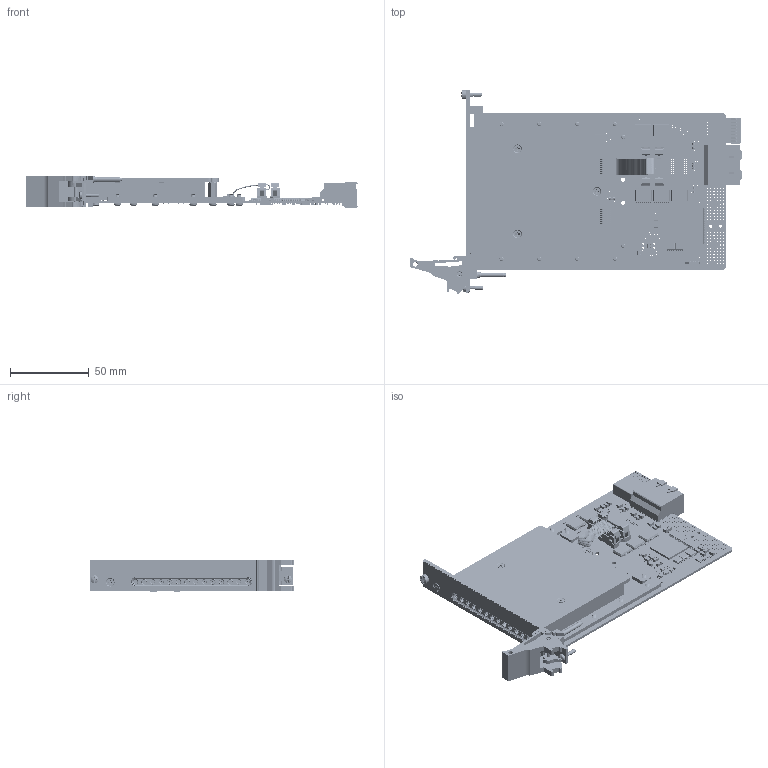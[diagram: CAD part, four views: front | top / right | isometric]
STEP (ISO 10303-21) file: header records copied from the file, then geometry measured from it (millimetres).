
FILE_DESCRIPTION (( 'STEP AP214' ), '1' );
FILE_NAME ('42-203-001 PXIe 1000Base-T1 Fault Insertion Switch 3-Channel.step', '2023-03-17T10:39:54', ( '' ), ( '' ), 'SwSTEP 2.0', 'SolidWorks 2021', '' );
FILE_SCHEMA (( 'AUTOMOTIVE_DESIGN' ));
Length unit declared in the file: millimetre
Products named in the file (86): A-PC-1323-PXIe-# RF MUX MOTHERBOARD; C-CP-239  Power Line Filter; C-IC-124 16-Bit Constant Current Sink Driver; C-IC-425 SOICN 8PIN SD; C-CN-939 8-Way Ribbon Cable 2 in_PXI RF DC1; C-RS-256 Res 100K (0603) 1.16W 1% 100pp SMT; C-FX-042 Screw M2.5x6 CSK Pozi_M 2.5x06 - C-FX-042; C-FX-303 12mm M2.5 Hex Standoff_12mm Hexagonal spacer; C-CN-1550 MMCX Switchable Jack 50 Ohms; C-CP-099 CAP 0.1uF 16V 0402 SMT; C-CN-939 8-Way Ribbon Cable assembly 2 in _PXI RF DC1; C-FX-165 Handle Pin; C-IC-546 24 BIT BUS SWITCH 56PIN TVSOP; C-RS-521 Res 120R (0603) 1-16W 1% 100pp; C-CP-139 CAP 4.7UF 1206 16V X7R 10%; C-MS-803 BEAD 120R 0603 2A 0R05 25%; C-PC-1323 RF MUX MOTHERBOARD WITH PXIe; C-CN-1116-Body 40 WAY PXIE XJ4 TYPE B8 RA F; C-FX-432 M2.5 x 6mm Slotted Screw with Vibra Fix Solution; C-CN-107-PIN; C-RS-1487 RES 100k 0.1W 25PPM 0603; C-CP-175 CAP 22uF 1206 25V X5R 10%; C-IC-158 Buffer 3-State SOT-23 5-Pin; P-FX-017 M2,5 Collar Posi-Slot Screw; C-IC-548 1-Bit Flip-Flop 8-Pin SM8; C-RS-088 Res 390R 0603; A-PC-1434 1000Base-T1 6CH FIBO Fault Bus Daughter; C-IC-442 VSSOP 8PIN SD; C-FX-551 Mother & Daughter Clamp R; C-RS-659 RES NW 4K7 4RES 8PINS SMT1206; C-CN-1422-BODY PXIE XJ3 RA F TH SD; C-FX-1271 Black Flexible MMCX Long Row Connector Support; C-CP-130 CAP 1uF CERAMIC SMT 0603; C-FX-165 CPCI Ejector Handle; C-IC-338 4-Channel Digital Isolator 16-Pin SOIC W; C-FX-165 Handle Finger; C-CN-1097 SMP PCB M PIN&PASTE LTD DETENT; C-CP-141 CAP 10UF 1206 35V X5R 10%; A-PC-1323-PXIe RF MUX MOTHERBOARD; C-IC-458 LDO VOLTAGE REGULATOR 1.2V SOT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
Assembly tree (282 placements, depth 5):
  42-203-001 PXIe 1000Base-T1 Fault Insertion Switch 3-Channel
    A-PC-1323-PXIe RF MUX MOTHERBOARD
      A-PC-1323-PXIe-# RF MUX MOTHERBOARD
        C-PC-1323 RF MUX MOTHERBOARD WITH PXIe
        C-CN-897 2x8 way Connector 1.27 pitch  x2
        C-CN-1071
          C-CN-107-BODY
          C-CN-107-PIN  x8
        C-CN-1116 40 WAY PXIE XJ4 TYPE B8 RA F
          C-CN-1116-Body 40 WAY PXIE XJ4 TYPE B8 RA F
          C-CN-1116-Shield 40 WAY PXIE XJ4 TYPE B8 RA F
        C-CN-1422 PXIE XJ3 RA F TH SD ASSY
          C-CN-1422-BODY PXIE XJ3 RA F TH SD
        C-CP-033 Capacitor 10nF SMT 0603  x3
        C-CP-034  x31
        C-CP-099 CAP 0.1uF 16V 0402 SMT  x14
        C-CP-124 CAP 10nF CERAMIC SMT 0402  x29
        C-CP-130 CAP 1uF CERAMIC SMT 0603  x4
        C-CP-131 CAP 3.3nF CERAMIC SMT 0402
        C-CP-139 CAP 4.7UF 1206 16V X7R 10%  x4
        C-CP-141 CAP 10UF 1206 35V X5R 10%  x8
        C-CP-175 CAP 22uF 1206 25V X5R 10%  x7
        C-CP-239  Power Line Filter  x3
        C-IC-158 Buffer 3-State SOT-23 5-Pin
        C-IC-310 SOT353 SD
        C-IC-338 4-Channel Digital Isolator 16-Pin SOIC W  x5
        C-IC-369 FPGA 17000 Cells 65nm Technology 1.2V 256-Pin FTBGA
        C-IC-425 SOICN 8PIN SD  x2
        C-IC-426 32-Flash Memory Standard Serial NOR 32Mbit SPI WSOIC-8
        C-IC-442 VSSOP 8PIN SD
        C-IC-458 LDO VOLTAGE REGULATOR 1.2V SOT  x2
        C-IC-497 High Accuracy 3V to 17V Step Down Converter
        C-IC-546 24 BIT BUS SWITCH 56PIN TVSOP  x2
        C-IC-548 1-Bit Flip-Flop 8-Pin SM8
        C-MS-803 BEAD 120R 0603 2A 0R05 25%  x4
        C-MS-1069 Shielded Power Inductor
        C-RS-147 Res 100R 0603 1-16W 1% 100PPM  x2
        C-RS-148 Res 1K 0603 1-16W 1% 100PPM  x2
        C-RS-152 Res 10K 0603 1-16W 1% 300PPM  x5
        C-RS-190 Res 0R0 SIZE 0603 SMT  x5
        C-RS-256 Res 100K (0603) 1.16W 1% 100pp SMT
        C-RS-490 Res 0603 82K SMT
        C-RS-521 Res 120R (0603) 1-16W 1% 100pp
        C-RS-659 RES NW 4K7 4RES 8PINS SMT1206  x4
        C-RS-1247 RES 510K 0603 0.1W 1% 100PPM
        C-RS-1487 RES 100k 0.1W 25PPM 0603
        C-SC-137 TVS DIODE ARRAY
        C-SC-146 Dual Transistor SOT-14  x2
    A-PC-1434 1000Base-T1 6CH FIBO Fault Bus Daughter
      A-PC-1434-# 1000Base-T1 6CH FIBO Fault Bus Daughter
        C-PC-1434 1000Base-T1 6CH FIBO Fault Bus Daughter
        C-RS-190 Res 0R0 SIZE 0603 SMT  x13
        C-CN-1097 SMP PCB M PIN&PASTE LTD DETENT  x2
        C-CN-1550 MMCX Switchable Jack 50 Ohms  x14
        C-RL-383  200RF50-1-A-5-2D Relay   x18
        C-IC-124 16-Bit Constant Current Sink Driver  x2
        C-RS-088 Res 390R 0603  x2
        C-CP-034  x2
        C-CP-239  Power Line Filter
        C-RS-529 RES 10R 0603 1-16W 1% 100PPM
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Bounding box: 210.75 x 129.63 x 20.79 mm (x, y, z)
Volume: 80305.5 mm3; surface area: 117915.8 mm2
Topology: 453 solids, 555 shells, 27821 faces, 72217 edges, 46425 vertices
Faces by surface type: plane 15518, cylinder 8121, cone 2154, bspline 1384, torus 634, sphere 10
Entity records: 495397 total; most frequent: CARTESIAN_POINT 87365, DIRECTION 64347, ORIENTED_EDGE 61985, EDGE_CURVE 31520, AXIS2_PLACEMENT_3D 21780, VECTOR 20787, LINE 20787, VERTEX_POINT 20397
